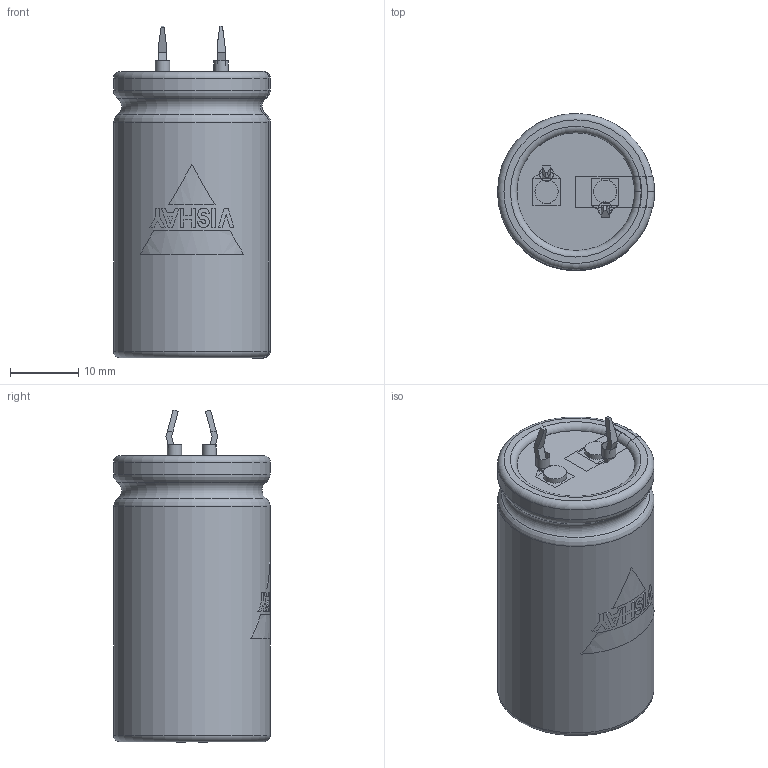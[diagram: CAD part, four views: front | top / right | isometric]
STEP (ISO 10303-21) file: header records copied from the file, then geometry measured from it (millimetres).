
FILE_DESCRIPTION(('FreeCAD Model'),'2;1');
FILE_NAME( 'C:/Users/Gebruiker/Documents/FreeCAD/SnapIn_22x40_2pin_5.8.step', '2020-11-12T19:56:05',('Author'),(''), 'Open CASCADE STEP processor 6.8','FreeCAD','Unknown');
FILE_SCHEMA(('AUTOMOTIVE_DESIGN_CC2 { 1 2 10303 214 -1 1 5 4 }'));
Length unit declared in the file: millimetre
Products named in the file (9): ASSEMBLY; TerminalMin; TerminalPlus; PCBHoles; Disc; BottomInsulation; Can3D; InkMinusBar; InkLogo
Assembly tree (8 placements, depth 2):
  ASSEMBLY
    TerminalMin
    TerminalPlus
    PCBHoles
    Disc
    BottomInsulation
    Can3D
    InkMinusBar
    InkLogo
Bounding box: 23.05 x 23.05 x 48.75 mm (x, y, z)
Volume: 19496.5 mm3; surface area: 8847 mm2
Topology: 16 solids, 16 shells, 201 faces, 503 edges, 330 vertices
Faces by surface type: plane 154, cylinder 29, torus 18
Full cylindrical faces by diameter (mm): 2 x2, 2.1 x2, 3.4 x2, 17.3 x1, 18.4 x2, 23 x2
Entity records: 20781 total; most frequent: CARTESIAN_POINT 9553, DIRECTION 1753, ORIENTED_EDGE 1006, PCURVE 1006, DEFINITIONAL_REPRESENTATION 1006, LINE 982, VECTOR 982, EDGE_CURVE 503
